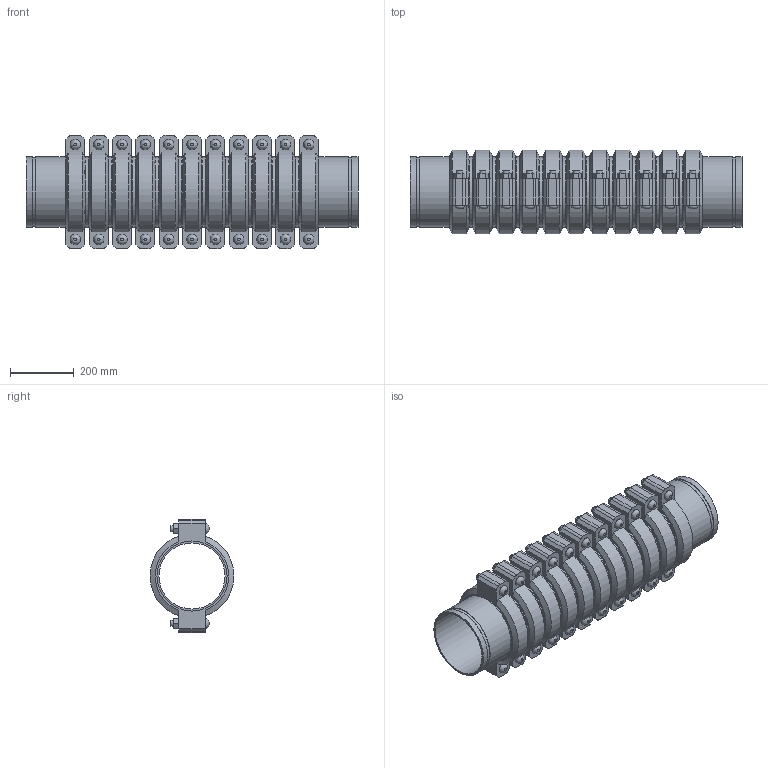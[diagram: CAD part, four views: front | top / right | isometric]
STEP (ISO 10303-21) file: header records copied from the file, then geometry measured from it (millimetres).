
FILE_DESCRIPTION(/* description */ ('VIC SS EXPANSION JOINT 11COUPLINGS NEUTRAL STYLE 155P (OGS) (POTABLE WATER) ','CAx-IF Rec.Pracs.---Representation and Presentation of Product Manufacturing Information (PMI)---4.0---2014-10-13'),/* implementation_level */ '2;1');
FILE_NAME(/* name */ 'C:\Users\kkamble\AppData\Roaming\Autodesk\ApplicationPlugins\Victaulic.Temp\A19\Victaulic_SS_Expansion Joint_Neutral_11 Couplings_Style 155P (OGS)-Potable Water_11 Coup_Neut_8 (200).stp',/* time_stamp */ '2021-07-16T16:28:43+06:00',/* author */ ('kkamble'),/* organization */ ('Victaulic'),/* preprocessor_version */ 'ST-DEVELOPER v17.2',/* originating_system */ 'Autodesk Inventor 2019',/* authorisation */ '');
FILE_SCHEMA (('AP242_MANAGED_MODEL_BASED_3D_ENGINEERING_MIM_LF { 1 0 10303 442 1 1 4 }'));
Length unit declared in the file: inch
Products named in the file (4): 155P-08.0; Nipple-08.0; Nipple-08.0_1; 075-08.0
Assembly tree (23 placements, depth 2):
  155P-08.0
    Nipple-08.0  x2
    Nipple-08.0_1  x10
    075-08.0  x11
Bounding box: 1038.35 x 261.72 x 354.84 mm (x, y, z)
Volume: 18750058.2 mm3; surface area: 3388248.4 mm2
Topology: 23 solids, 45 shells, 771 faces, 1823 edges, 1278 vertices
Faces by surface type: plane 468, cylinder 237, cone 44, bspline 22
Full cylindrical faces by diameter (mm): 19.05 x44, 21.209 x22, 206.985 x12, 212.725 x11, 214.401 x24, 219.075 x58
Entity records: 2897 total; most frequent: CARTESIAN_POINT 507, DIRECTION 489, ORIENTED_EDGE 386, AXIS2_PLACEMENT_3D 198, EDGE_CURVE 193, VERTEX_POINT 138, EDGE_LOOP 107, LINE 93
